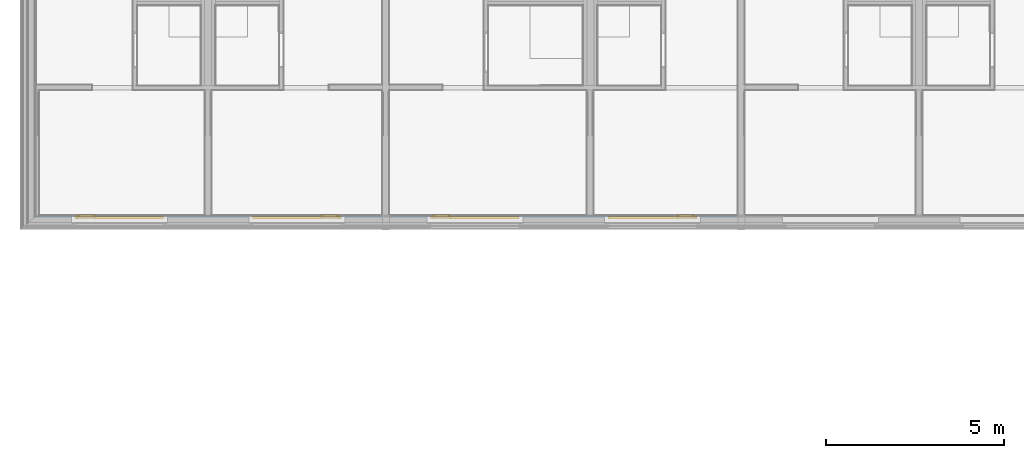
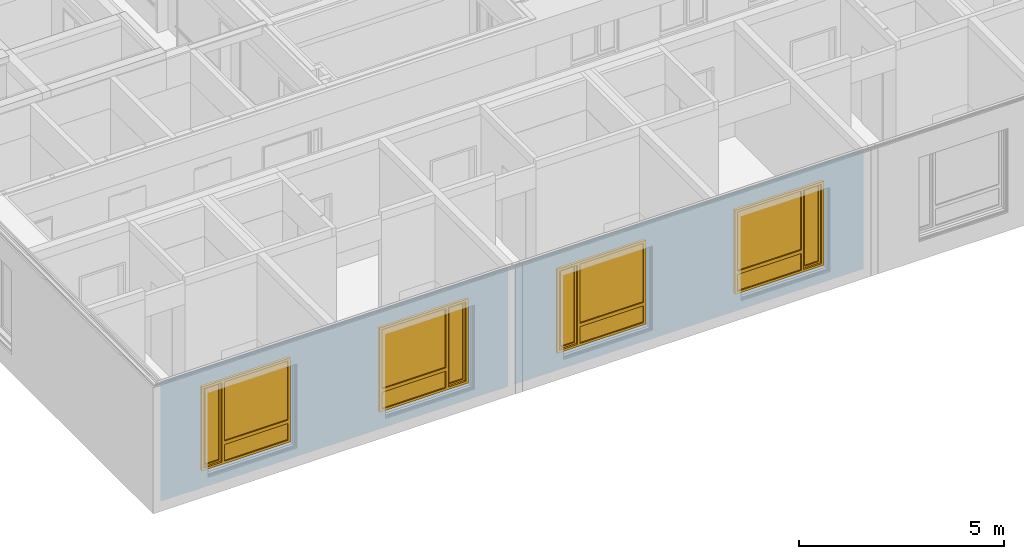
# One storey, part 58 of 222: 4 windows, 4 openings, plus 2 elements that do not belong to this part.
"""IFC4 building model written with IfcOpenShell, lengths in metres."""

from ifc_helpers import new_model, entity, si_unit, converted_unit, derived_unit, frame, frame_2d, origin, origin_with_axes, place, context, subcontext, project, spatial, polyline, rectangle, outline, extrude, closed_shell, open_shell, surface_model, source, transform, mapped, material, element, fill, save


model = new_model("IFC4")

# Units and contexts
model_context = context("Model", 3, precision=1e-05, world=origin())
body_context = subcontext(model_context, "Body", "Model", "MODEL_VIEW")
ifc_project = project(units=[si_unit("LENGTHUNIT", "METRE"), si_unit("AREAUNIT", "SQUARE_METRE"), si_unit("VOLUMEUNIT", "CUBIC_METRE"), si_unit("MASSUNIT", "GRAM", prefix="KILO"), converted_unit("PLANEANGLEUNIT", "DEGREE", entity("IfcPlaneAngleMeasure", 0.0174532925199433), si_unit("PLANEANGLEUNIT", "RADIAN"), dimensions=[0, 0, 0, 0, 0, 0, 0]), derived_unit("THERMALTRANSMITTANCEUNIT", [(si_unit("POWERUNIT", "WATT"), 1), (si_unit("THERMODYNAMICTEMPERATUREUNIT", "KELVIN"), -1), (si_unit("LENGTHUNIT", "METRE"), -2)]), derived_unit("VOLUMETRICFLOWRATEUNIT", [(si_unit("LENGTHUNIT", "METRE"), 3), (converted_unit("TIMEUNIT", "hour", entity("IfcTimeMeasure", 3600.0), si_unit("TIMEUNIT", "SECOND"), dimensions=[0, 0, 1, 0, 0, 0, 0]), -1), (si_unit("LENGTHUNIT", "METRE"), -1)])], contexts=[model_context])

# Site, building, storey
site_placement = place(None, origin())
site = spatial("IfcSite", under=ifc_project, at=site_placement, Name="Psychiatrie Neubau Wunstorf", CompositionType="ELEMENT")
building_placement = place(site_placement, origin())
building = spatial("IfcBuilding", under=site, at=building_placement, Name="Neubau H2 Stationsgebäude", CompositionType="ELEMENT")
storey_placement = place(building_placement, frame((0.0, 0.0, 3.6)))
storey = spatial("IfcBuildingStorey", under=building, at=storey_placement, Name="H2 Ebene +1", CompositionType="ELEMENT", Elevation=3.6)

# Wall, openings, windows
ifc_material_1 = material(Name="WA-LB")
wall_1_placement = place(storey_placement, frame((19.9, -2.16399999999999, 0.0), z_axis=(0.0, 0.0, 1.0), x_axis=(-1.0, 1.39208372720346e-16, 0.0)))
wall_1 = element("IfcWall", 1, at=wall_1_placement, inside=storey, material=ifc_material_1, context=body_context, shape_type="SweptSolid", body=[
    extrude(rectangle(XDim=9.8, YDim=0.036, at=frame_2d((4.9, 0.018), x_axis=(1.0, 0.0))), origin_with_axes(), (0.0, 0.0, 1.0), 3.55),
])
opening_1_placement = place(wall_1_placement, frame((6.15, 0.0, 0.55), z_axis=(0.0, 1.0, 0.0), x_axis=(0.0, 0.0, 1.0)))
opening_1 = element("IfcOpeningElement", 2, at=opening_1_placement, cuts=wall_1, Name="Fensteröffnung", ObjectType="Opening", context=body_context, shape_type="SweptSolid", body=[
    extrude(outline(polyline([(2.5, 2.5), (2.5, 0.0), (0.0, 0.0), (0.0, 2.5), (2.5, 2.5)])), origin_with_axes(), (0.0, 0.0, 1.0), 0.036),
])
opening_2_placement = place(wall_1_placement, frame((1.15, 0.0, 0.55), z_axis=(0.0, 1.0, 0.0), x_axis=(0.0, 0.0, 1.0)))
opening_2 = element("IfcOpeningElement", 3, at=opening_2_placement, cuts=wall_1, Name="Fensteröffnung", ObjectType="Opening", context=body_context, shape_type="SweptSolid", body=[
    extrude(outline(polyline([(2.5, 2.5), (2.5, 0.0), (0.0, 0.0), (0.0, 2.5), (2.5, 2.5)])), origin_with_axes(), (0.0, 0.0, 1.0), 0.036),
])
shared_shape_1 = source(origin_with_axes(), body_context, "Body", "SurfaceModel", [
    surface_model("IfcShellBasedSurfaceModel", [(2.5, 0.0, 2.5), (2.5, 0.0, 0.0), (2.43, 0.0, 0.0), (2.43, 0.0, 2.5), (2.5, 0.0699999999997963, 0.0), (2.5, 0.0699999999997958, 2.5), (2.43, 0.0699999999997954, 2.5), (2.43, 0.0699999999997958, 0.0)], [closed_shell([[[0, 1, 2, 3]], [[4, 5, 6, 7]], [[1, 0, 5, 4]], [[2, 1, 4, 7]], [[3, 2, 7, 6]], [[0, 3, 6, 5]]], orient=[[False], [False], [False], [False], [False], [False]])]),
    surface_model("IfcShellBasedSurfaceModel", [(0.07, 0.0, 2.5), (0.07, 0.0, 0.0), (0.0, 0.0, 0.0), (0.0, 0.0, 2.5), (0.07, 0.0699999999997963, 0.0), (0.07, 0.0699999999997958, 2.5), (0.0, 0.0699999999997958, 2.5), (0.0, 0.0699999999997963, 0.0)], [closed_shell([[[0, 1, 2, 3]], [[4, 5, 6, 7]], [[1, 0, 5, 4]], [[2, 1, 4, 7]], [[3, 2, 7, 6]], [[0, 3, 6, 5]]], orient=[[False], [False], [False], [False], [False], [False]])]),
    surface_model("IfcShellBasedSurfaceModel", [(2.43, 0.0, 0.07), (2.43, 0.0, 0.0), (0.07, 0.0, 0.0), (0.07, 0.0, 0.07), (2.43, 0.0699999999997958, 0.0), (2.43, 0.0699999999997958, 0.07), (0.07, 0.0699999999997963, 0.07), (0.07, 0.0699999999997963, 0.0)], [closed_shell([[[0, 1, 2, 3]], [[4, 5, 6, 7]], [[1, 0, 5, 4]], [[2, 1, 4, 7]], [[3, 2, 7, 6]], [[0, 3, 6, 5]]], orient=[[False], [False], [False], [False], [False], [False]])]),
    surface_model("IfcShellBasedSurfaceModel", [(2.43, 0.0, 2.5), (2.43, 0.0, 2.43), (0.07, 0.0, 2.43), (0.07, 0.0, 2.5), (2.43, 0.0699999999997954, 2.43), (2.43, 0.0699999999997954, 2.5), (0.07, 0.0699999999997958, 2.5), (0.07, 0.0699999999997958, 2.43)], [closed_shell([[[0, 1, 2, 3]], [[4, 5, 6, 7]], [[1, 0, 5, 4]], [[2, 1, 4, 7]], [[3, 2, 7, 6]], [[0, 3, 6, 5]]], orient=[[False], [False], [False], [False], [False], [False]])]),
    surface_model("IfcShellBasedSurfaceModel", [(1.934285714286, 0.0, 2.43), (1.934285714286, 0.0, 0.07), (1.864285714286, 0.0, 0.07), (1.864285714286, 0.0, 2.43), (1.934285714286, 0.0699999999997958, 0.07), (1.934285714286, 0.0699999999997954, 2.43), (1.864285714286, 0.0699999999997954, 2.43), (1.864285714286, 0.0699999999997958, 0.07)], [closed_shell([[[0, 1, 2, 3]], [[4, 5, 6, 7]], [[1, 0, 5, 4]], [[2, 1, 4, 7]], [[3, 2, 7, 6]], [[0, 3, 6, 5]]], orient=[[False], [False], [False], [False], [False], [False]])]),
    surface_model("IfcShellBasedSurfaceModel", [(2.45, -0.0500000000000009, 2.45), (2.45, -0.0500000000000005, 0.05), (2.38, -0.0500000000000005, 0.05), (2.38, -0.0500000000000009, 2.45), (2.45, 0.0199999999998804, 0.05), (2.45, 0.0199999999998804, 2.45), (2.38, 0.0199999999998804, 2.45), (2.38, 0.0199999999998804, 0.05)], [closed_shell([[[0, 1, 2, 3]], [[4, 5, 6, 7]], [[1, 0, 5, 4]], [[2, 1, 4, 7]], [[3, 2, 7, 6]], [[0, 3, 6, 5]]], orient=[[False], [False], [False], [False], [False], [False]])]),
    surface_model("IfcShellBasedSurfaceModel", [(1.984285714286, -0.0500000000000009, 2.45), (1.984285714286, -0.0500000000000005, 0.05), (1.914285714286, -0.0500000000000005, 0.05), (1.914285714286, -0.0500000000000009, 2.45), (1.984285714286, 0.0199999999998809, 0.05), (1.984285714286, 0.0199999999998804, 2.45), (1.914285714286, 0.0199999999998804, 2.45), (1.914285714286, 0.0199999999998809, 0.05)], [closed_shell([[[0, 1, 2, 3]], [[4, 5, 6, 7]], [[1, 0, 5, 4]], [[2, 1, 4, 7]], [[3, 2, 7, 6]], [[0, 3, 6, 5]]], orient=[[False], [False], [False], [False], [False], [False]])]),
    surface_model("IfcShellBasedSurfaceModel", [(2.38, -0.0500000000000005, 0.12), (2.38, -0.0500000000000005, 0.05), (1.984285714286, -0.0500000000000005, 0.05), (1.984285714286, -0.0500000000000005, 0.12), (2.38, 0.0199999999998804, 0.05), (2.38, 0.0199999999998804, 0.12), (1.984285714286, 0.0199999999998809, 0.12), (1.984285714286, 0.0199999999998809, 0.05)], [closed_shell([[[0, 1, 2, 3]], [[4, 5, 6, 7]], [[1, 0, 5, 4]], [[2, 1, 4, 7]], [[3, 2, 7, 6]], [[0, 3, 6, 5]]], orient=[[False], [False], [False], [False], [False], [False]])]),
    surface_model("IfcShellBasedSurfaceModel", [(2.38, -0.0500000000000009, 2.45), (2.38, -0.0500000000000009, 2.38), (1.984285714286, -0.0500000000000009, 2.38), (1.984285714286, -0.0500000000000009, 2.45), (2.38, 0.0199999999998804, 2.38), (2.38, 0.0199999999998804, 2.45), (1.984285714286, 0.0199999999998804, 2.45), (1.984285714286, 0.0199999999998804, 2.38)], [closed_shell([[[0, 1, 2, 3]], [[4, 5, 6, 7]], [[1, 0, 5, 4]], [[2, 1, 4, 7]], [[3, 2, 7, 6]], [[0, 3, 6, 5]]], orient=[[False], [False], [False], [False], [False], [False]])]),
    surface_model("IfcShellBasedSurfaceModel", [(1.864285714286, 0.0, 0.67), (1.864285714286, 0.0, 0.57), (0.07, 0.0, 0.57), (0.07, 0.0, 0.67), (1.864285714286, 0.0699999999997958, 0.57), (1.864285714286, 0.0699999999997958, 0.67), (0.07, 0.0699999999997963, 0.67), (0.07, 0.0699999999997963, 0.57)], [closed_shell([[[0, 1, 2, 3]], [[4, 5, 6, 7]], [[1, 0, 5, 4]], [[2, 1, 4, 7]], [[3, 2, 7, 6]], [[0, 3, 6, 5]]], orient=[[False], [False], [False], [False], [False], [False]])]),
    surface_model("IfcShellBasedSurfaceModel", [(2.38, -0.01500000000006, 0.12), (1.984285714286, -0.01500000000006, 0.12), (1.984285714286, -0.01500000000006, 2.38), (2.38, -0.0150000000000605, 2.38)], [open_shell([[[0, 1, 2, 3]]], orient=[[False]])]),
    surface_model("IfcShellBasedSurfaceModel", [(1.864285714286, 0.0349999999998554, 0.07), (0.07, 0.0349999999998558, 0.07), (0.07, 0.0349999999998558, 0.57), (1.864285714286, 0.0349999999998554, 0.57)], [open_shell([[[0, 1, 2, 3]]], orient=[[False]])]),
    surface_model("IfcShellBasedSurfaceModel", [(1.864285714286, 0.0349999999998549, 0.67), (0.07, 0.0349999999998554, 0.67), (0.07, 0.0349999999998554, 2.43), (1.864285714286, 0.0349999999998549, 2.43)], [open_shell([[[0, 1, 2, 3]]], orient=[[False]])]),
])
window_1_placement = place(opening_1_placement, frame((0.0, 0.0, 0.03), z_axis=(1.0, 0.0, 0.0), x_axis=(0.0, 1.0, -4.26905676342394e-17)))
window_1 = element("IfcWindow", 4, at=window_1_placement, inside=storey, Name="Fenster", OverallHeight=2.5, OverallWidth=2.5, PartitioningType="USERDEFINED", PredefinedType="WINDOW", context=body_context, shape_type="MappedRepresentation", body=[
    mapped(shared_shape_1, transform((0.0, 0.0, 0.0), x_axis=(1.0, 0.0, 0.0), y_axis=(0.0, 1.0, 0.0), z_axis=(0.0, 0.0, 1.0), scale=1.0)),
])
fill(opening_1, window_1)
shared_shape_2 = source(origin_with_axes(), body_context, "Body", "SurfaceModel", [
    surface_model("IfcShellBasedSurfaceModel", [(0.0, 0.0, 2.5), (0.07, 0.0, 2.5), (0.07, 0.0, 0.0), (0.0, 0.0, 0.0), (0.0, 0.0699999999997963, 0.0), (0.07, 0.0699999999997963, 0.0), (0.07, 0.0699999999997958, 2.5), (0.0, 0.0699999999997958, 2.5)], [closed_shell([[[0, 1, 2, 3]], [[4, 5, 6, 7]], [[3, 4, 7, 0]], [[2, 5, 4, 3]], [[1, 6, 5, 2]], [[0, 7, 6, 1]]], orient=[[False], [False], [False], [False], [False], [False]])]),
    surface_model("IfcShellBasedSurfaceModel", [(2.43, 0.0, 2.5), (2.5, 0.0, 2.5), (2.5, 0.0, 0.0), (2.43, 0.0, 0.0), (2.43, 0.0699999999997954, 0.0), (2.5, 0.0699999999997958, 0.0), (2.5, 0.0699999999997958, 2.5), (2.43, 0.0699999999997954, 2.5)], [closed_shell([[[0, 1, 2, 3]], [[4, 5, 6, 7]], [[3, 4, 7, 0]], [[2, 5, 4, 3]], [[1, 6, 5, 2]], [[0, 7, 6, 1]]], orient=[[False], [False], [False], [False], [False], [False]])]),
    surface_model("IfcShellBasedSurfaceModel", [(0.07, 0.0, 0.07), (2.43, 0.0, 0.07), (2.43, 0.0, 0.0), (0.07, 0.0, 0.0), (0.07, 0.0699999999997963, 0.0), (2.43, 0.0699999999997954, 0.0), (2.43, 0.0699999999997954, 0.07), (0.07, 0.0699999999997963, 0.07)], [closed_shell([[[0, 1, 2, 3]], [[4, 5, 6, 7]], [[3, 4, 7, 0]], [[2, 5, 4, 3]], [[1, 6, 5, 2]], [[0, 7, 6, 1]]], orient=[[False], [False], [False], [False], [False], [False]])]),
    surface_model("IfcShellBasedSurfaceModel", [(0.07, 0.0, 2.5), (2.43, 0.0, 2.5), (2.43, 0.0, 2.43), (0.07, 0.0, 2.43), (0.07, 0.0699999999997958, 2.43), (2.43, 0.0699999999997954, 2.43), (2.43, 0.0699999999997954, 2.5), (0.07, 0.0699999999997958, 2.5)], [closed_shell([[[0, 1, 2, 3]], [[4, 5, 6, 7]], [[3, 4, 7, 0]], [[2, 5, 4, 3]], [[1, 6, 5, 2]], [[0, 7, 6, 1]]], orient=[[False], [False], [False], [False], [False], [False]])]),
    surface_model("IfcShellBasedSurfaceModel", [(0.565714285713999, 0.0, 2.43), (0.635714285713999, 0.0, 2.43), (0.635714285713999, 0.0, 0.07), (0.565714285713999, 0.0, 0.07), (0.565714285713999, 0.0699999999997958, 0.07), (0.635714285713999, 0.0699999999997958, 0.07), (0.635714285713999, 0.0699999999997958, 2.43), (0.565714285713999, 0.0699999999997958, 2.43)], [closed_shell([[[0, 1, 2, 3]], [[4, 5, 6, 7]], [[3, 4, 7, 0]], [[2, 5, 4, 3]], [[1, 6, 5, 2]], [[0, 7, 6, 1]]], orient=[[False], [False], [False], [False], [False], [False]])]),
    surface_model("IfcShellBasedSurfaceModel", [(0.05, -0.0500000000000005, 2.45), (0.12, -0.0500000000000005, 2.45), (0.12, -0.05, 0.05), (0.05, -0.05, 0.05), (0.05, 0.0199999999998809, 0.05), (0.12, 0.0199999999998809, 0.05), (0.12, 0.0199999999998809, 2.45), (0.05, 0.0199999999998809, 2.45)], [closed_shell([[[0, 1, 2, 3]], [[4, 5, 6, 7]], [[3, 4, 7, 0]], [[2, 5, 4, 3]], [[1, 6, 5, 2]], [[0, 7, 6, 1]]], orient=[[False], [False], [False], [False], [False], [False]])]),
    surface_model("IfcShellBasedSurfaceModel", [(0.515714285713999, -0.0500000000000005, 2.45), (0.585714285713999, -0.0500000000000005, 2.45), (0.585714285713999, -0.0500000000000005, 0.05), (0.515714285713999, -0.0500000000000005, 0.05), (0.515714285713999, 0.0199999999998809, 0.05), (0.585714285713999, 0.0199999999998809, 0.05), (0.585714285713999, 0.0199999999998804, 2.45), (0.515714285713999, 0.0199999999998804, 2.45)], [closed_shell([[[0, 1, 2, 3]], [[4, 5, 6, 7]], [[3, 4, 7, 0]], [[2, 5, 4, 3]], [[1, 6, 5, 2]], [[0, 7, 6, 1]]], orient=[[False], [False], [False], [False], [False], [False]])]),
    surface_model("IfcShellBasedSurfaceModel", [(0.12, -0.05, 0.12), (0.515714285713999, -0.0500000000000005, 0.12), (0.515714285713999, -0.0500000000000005, 0.05), (0.12, -0.05, 0.05), (0.12, 0.0199999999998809, 0.05), (0.515714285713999, 0.0199999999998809, 0.05), (0.515714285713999, 0.0199999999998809, 0.12), (0.12, 0.0199999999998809, 0.12)], [closed_shell([[[0, 1, 2, 3]], [[4, 5, 6, 7]], [[3, 4, 7, 0]], [[2, 5, 4, 3]], [[1, 6, 5, 2]], [[0, 7, 6, 1]]], orient=[[False], [False], [False], [False], [False], [False]])]),
    surface_model("IfcShellBasedSurfaceModel", [(0.12, -0.0500000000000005, 2.45), (0.515714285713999, -0.0500000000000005, 2.45), (0.515714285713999, -0.0500000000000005, 2.38), (0.12, -0.0500000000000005, 2.38), (0.12, 0.0199999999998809, 2.38), (0.515714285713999, 0.0199999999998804, 2.38), (0.515714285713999, 0.0199999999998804, 2.45), (0.12, 0.0199999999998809, 2.45)], [closed_shell([[[0, 1, 2, 3]], [[4, 5, 6, 7]], [[3, 4, 7, 0]], [[2, 5, 4, 3]], [[1, 6, 5, 2]], [[0, 7, 6, 1]]], orient=[[False], [False], [False], [False], [False], [False]])]),
    surface_model("IfcShellBasedSurfaceModel", [(0.635714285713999, 0.0, 0.67), (2.43, 0.0, 0.67), (2.43, 0.0, 0.57), (0.635714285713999, 0.0, 0.57), (0.635714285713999, 0.0699999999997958, 0.57), (2.43, 0.0699999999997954, 0.57), (2.43, 0.0699999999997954, 0.67), (0.635714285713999, 0.0699999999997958, 0.67)], [closed_shell([[[0, 1, 2, 3]], [[4, 5, 6, 7]], [[3, 4, 7, 0]], [[2, 5, 4, 3]], [[1, 6, 5, 2]], [[0, 7, 6, 1]]], orient=[[False], [False], [False], [False], [False], [False]])]),
    surface_model("IfcShellBasedSurfaceModel", [(0.12, -0.0150000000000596, 0.12), (0.12, -0.01500000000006, 2.38), (0.515714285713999, -0.01500000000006, 2.38), (0.515714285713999, -0.0150000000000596, 0.12)], [open_shell([[[0, 1, 2, 3]]], orient=[[False]])]),
    surface_model("IfcShellBasedSurfaceModel", [(0.635714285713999, 0.0349999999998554, 0.07), (0.635714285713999, 0.0349999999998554, 0.57), (2.43, 0.0349999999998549, 0.57), (2.43, 0.0349999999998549, 0.07)], [open_shell([[[0, 1, 2, 3]]], orient=[[False]])]),
    surface_model("IfcShellBasedSurfaceModel", [(0.635714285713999, 0.0349999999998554, 0.67), (0.635714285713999, 0.0349999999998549, 2.43), (2.43, 0.0349999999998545, 2.43), (2.43, 0.0349999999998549, 0.67)], [open_shell([[[0, 1, 2, 3]]], orient=[[False]])]),
])
window_2_placement = place(opening_2_placement, frame((0.0, 0.0, 0.03), z_axis=(1.0, 0.0, 0.0), x_axis=(0.0, 1.0, -4.26905676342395e-17)))
window_2 = element("IfcWindow", 5, at=window_2_placement, inside=storey, Name="Fenster", OverallHeight=2.5, OverallWidth=2.5, PartitioningType="USERDEFINED", PredefinedType="WINDOW", context=body_context, shape_type="MappedRepresentation", body=[
    mapped(shared_shape_2, transform((0.0, 0.0, 0.0), x_axis=(1.0, 0.0, 0.0), y_axis=(0.0, 1.0, 0.0), z_axis=(0.0, 0.0, 1.0), scale=1.0)),
])
fill(opening_2, window_2)

ifc_material_2 = material(Name="WA-LB")
wall_2_placement = place(storey_placement, frame((9.9, -2.16399999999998, 0.0), z_axis=(0.0, 0.0, 1.0), x_axis=(-1.0, 1.40209871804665e-16, 0.0)))
wall_2 = element("IfcWall", 6, at=wall_2_placement, inside=storey, material=ifc_material_2, context=body_context, shape_type="SweptSolid", body=[
    extrude(outline(polyline([(-9.77137313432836, -0.0360000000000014), (-0.0413731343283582, -0.0360000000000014), (0.0, 0.0), (-9.77137313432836, 0.0), (-9.77137313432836, -0.0360000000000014)])), frame((9.77137313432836, 0.0360000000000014, 0.0), z_axis=(0.0, 0.0, 1.0), x_axis=(1.0, 0.0, 0.0)), (0.0, 0.0, 1.0), 3.55),
])
opening_3_placement = place(wall_2_placement, frame((1.15, 0.0, 0.55), z_axis=(0.0, 1.0, 0.0), x_axis=(0.0, 0.0, 1.0)))
opening_3 = element("IfcOpeningElement", 7, at=opening_3_placement, cuts=wall_2, Name="Fensteröffnung", ObjectType="Opening", context=body_context, shape_type="SweptSolid", body=[
    extrude(outline(polyline([(2.5, 2.5), (2.5, 0.0), (0.0, 0.0), (0.0, 2.5), (2.5, 2.5)])), origin_with_axes(), (0.0, 0.0, 1.0), 0.036),
])
opening_4_placement = place(wall_2_placement, frame((6.15, 0.0, 0.55), z_axis=(0.0, 1.0, 0.0), x_axis=(0.0, 0.0, 1.0)))
opening_4 = element("IfcOpeningElement", 8, at=opening_4_placement, cuts=wall_2, Name="Fensteröffnung", ObjectType="Opening", context=body_context, shape_type="SweptSolid", body=[
    extrude(outline(polyline([(2.5, 2.5), (2.5, 0.0), (0.0, 0.0), (0.0, 2.5), (2.5, 2.5)])), origin_with_axes(), (0.0, 0.0, 1.0), 0.036),
])
shared_shape_3 = source(origin_with_axes(), body_context, "Body", "SurfaceModel", [
    surface_model("IfcShellBasedSurfaceModel", [(0.0, 0.0, 2.5), (0.07, 0.0, 2.5), (0.07, 0.0, 0.0), (0.0, 0.0, 0.0), (0.0, 0.0699999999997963, 0.0), (0.07, 0.0699999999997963, 0.0), (0.07, 0.0699999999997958, 2.5), (0.0, 0.0699999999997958, 2.5)], [closed_shell([[[0, 1, 2, 3]], [[4, 5, 6, 7]], [[3, 4, 7, 0]], [[2, 5, 4, 3]], [[1, 6, 5, 2]], [[0, 7, 6, 1]]], orient=[[False], [False], [False], [False], [False], [False]])]),
    surface_model("IfcShellBasedSurfaceModel", [(2.43, 0.0, 2.5), (2.5, 0.0, 2.5), (2.5, 0.0, 0.0), (2.43, 0.0, 0.0), (2.43, 0.0699999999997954, 0.0), (2.5, 0.0699999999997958, 0.0), (2.5, 0.0699999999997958, 2.5), (2.43, 0.0699999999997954, 2.5)], [closed_shell([[[0, 1, 2, 3]], [[4, 5, 6, 7]], [[3, 4, 7, 0]], [[2, 5, 4, 3]], [[1, 6, 5, 2]], [[0, 7, 6, 1]]], orient=[[False], [False], [False], [False], [False], [False]])]),
    surface_model("IfcShellBasedSurfaceModel", [(0.07, 0.0, 0.07), (2.43, 0.0, 0.07), (2.43, 0.0, 0.0), (0.07, 0.0, 0.0), (0.07, 0.0699999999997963, 0.0), (2.43, 0.0699999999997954, 0.0), (2.43, 0.0699999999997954, 0.07), (0.07, 0.0699999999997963, 0.07)], [closed_shell([[[0, 1, 2, 3]], [[4, 5, 6, 7]], [[3, 4, 7, 0]], [[2, 5, 4, 3]], [[1, 6, 5, 2]], [[0, 7, 6, 1]]], orient=[[False], [False], [False], [False], [False], [False]])]),
    surface_model("IfcShellBasedSurfaceModel", [(0.07, 0.0, 2.5), (2.43, 0.0, 2.5), (2.43, 0.0, 2.43), (0.07, 0.0, 2.43), (0.07, 0.0699999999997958, 2.43), (2.43, 0.0699999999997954, 2.43), (2.43, 0.0699999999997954, 2.5), (0.07, 0.0699999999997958, 2.5)], [closed_shell([[[0, 1, 2, 3]], [[4, 5, 6, 7]], [[3, 4, 7, 0]], [[2, 5, 4, 3]], [[1, 6, 5, 2]], [[0, 7, 6, 1]]], orient=[[False], [False], [False], [False], [False], [False]])]),
    surface_model("IfcShellBasedSurfaceModel", [(0.565714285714, 0.0, 2.43), (0.635714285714, 0.0, 2.43), (0.635714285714, 0.0, 0.07), (0.565714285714, 0.0, 0.07), (0.565714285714, 0.0699999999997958, 0.07), (0.635714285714, 0.0699999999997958, 0.07), (0.635714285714, 0.0699999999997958, 2.43), (0.565714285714, 0.0699999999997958, 2.43)], [closed_shell([[[0, 1, 2, 3]], [[4, 5, 6, 7]], [[3, 4, 7, 0]], [[2, 5, 4, 3]], [[1, 6, 5, 2]], [[0, 7, 6, 1]]], orient=[[False], [False], [False], [False], [False], [False]])]),
    surface_model("IfcShellBasedSurfaceModel", [(0.05, -0.0500000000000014, 2.45), (0.12, -0.0500000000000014, 2.45), (0.12, -0.0500000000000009, 0.05), (0.05, -0.0500000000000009, 0.05), (0.05, 0.0199999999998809, 0.05), (0.12, 0.0199999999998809, 0.05), (0.12, 0.0199999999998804, 2.45), (0.05, 0.0199999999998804, 2.45)], [closed_shell([[[0, 1, 2, 3]], [[4, 5, 6, 7]], [[3, 4, 7, 0]], [[2, 5, 4, 3]], [[1, 6, 5, 2]], [[0, 7, 6, 1]]], orient=[[False], [False], [False], [False], [False], [False]])]),
    surface_model("IfcShellBasedSurfaceModel", [(0.515714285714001, -0.0500000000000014, 2.45), (0.585714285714, -0.0500000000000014, 2.45), (0.585714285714, -0.0500000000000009, 0.05), (0.515714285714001, -0.0500000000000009, 0.05), (0.515714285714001, 0.0199999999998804, 0.05), (0.585714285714, 0.0199999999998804, 0.05), (0.585714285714, 0.0199999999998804, 2.45), (0.515714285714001, 0.0199999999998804, 2.45)], [closed_shell([[[0, 1, 2, 3]], [[4, 5, 6, 7]], [[3, 4, 7, 0]], [[2, 5, 4, 3]], [[1, 6, 5, 2]], [[0, 7, 6, 1]]], orient=[[False], [False], [False], [False], [False], [False]])]),
    surface_model("IfcShellBasedSurfaceModel", [(0.12, -0.0500000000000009, 0.12), (0.515714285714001, -0.0500000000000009, 0.12), (0.515714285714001, -0.0500000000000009, 0.05), (0.12, -0.0500000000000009, 0.05), (0.12, 0.0199999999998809, 0.05), (0.515714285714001, 0.0199999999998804, 0.05), (0.515714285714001, 0.0199999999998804, 0.12), (0.12, 0.0199999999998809, 0.12)], [closed_shell([[[0, 1, 2, 3]], [[4, 5, 6, 7]], [[3, 4, 7, 0]], [[2, 5, 4, 3]], [[1, 6, 5, 2]], [[0, 7, 6, 1]]], orient=[[False], [False], [False], [False], [False], [False]])]),
    surface_model("IfcShellBasedSurfaceModel", [(0.12, -0.0500000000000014, 2.45), (0.515714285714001, -0.0500000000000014, 2.45), (0.515714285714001, -0.0500000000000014, 2.38), (0.12, -0.0500000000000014, 2.38), (0.12, 0.0199999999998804, 2.38), (0.515714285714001, 0.0199999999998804, 2.38), (0.515714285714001, 0.0199999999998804, 2.45), (0.12, 0.0199999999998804, 2.45)], [closed_shell([[[0, 1, 2, 3]], [[4, 5, 6, 7]], [[3, 4, 7, 0]], [[2, 5, 4, 3]], [[1, 6, 5, 2]], [[0, 7, 6, 1]]], orient=[[False], [False], [False], [False], [False], [False]])]),
    surface_model("IfcShellBasedSurfaceModel", [(0.635714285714, 0.0, 0.67), (2.43, 0.0, 0.67), (2.43, 0.0, 0.57), (0.635714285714, 0.0, 0.57), (0.635714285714, 0.0699999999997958, 0.57), (2.43, 0.0699999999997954, 0.57), (2.43, 0.0699999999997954, 0.67), (0.635714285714, 0.0699999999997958, 0.67)], [closed_shell([[[0, 1, 2, 3]], [[4, 5, 6, 7]], [[3, 4, 7, 0]], [[2, 5, 4, 3]], [[1, 6, 5, 2]], [[0, 7, 6, 1]]], orient=[[False], [False], [False], [False], [False], [False]])]),
    surface_model("IfcShellBasedSurfaceModel", [(0.12, -0.01500000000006, 0.12), (0.12, -0.0150000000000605, 2.38), (0.515714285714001, -0.0150000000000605, 2.38), (0.515714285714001, -0.01500000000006, 0.12)], [open_shell([[[0, 1, 2, 3]]], orient=[[False]])]),
    surface_model("IfcShellBasedSurfaceModel", [(0.635714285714, 0.0349999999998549, 0.07), (0.635714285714, 0.0349999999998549, 0.57), (2.43, 0.0349999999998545, 0.57), (2.43, 0.0349999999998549, 0.07)], [open_shell([[[0, 1, 2, 3]]], orient=[[False]])]),
    surface_model("IfcShellBasedSurfaceModel", [(0.635714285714, 0.0349999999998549, 0.67), (0.635714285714, 0.0349999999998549, 2.43), (2.43, 0.0349999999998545, 2.43), (2.43, 0.0349999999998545, 0.67)], [open_shell([[[0, 1, 2, 3]]], orient=[[False]])]),
])
window_3_placement = place(opening_3_placement, frame((0.0, 0.0, 0.03), z_axis=(1.0, 0.0, 0.0), x_axis=(0.0, 1.0, -4.16890685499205e-17)))
window_3 = element("IfcWindow", 9, at=window_3_placement, inside=storey, Name="Fenster", OverallHeight=2.5, OverallWidth=2.5, PartitioningType="USERDEFINED", PredefinedType="WINDOW", context=body_context, shape_type="MappedRepresentation", body=[
    mapped(shared_shape_3, transform((0.0, 0.0, 0.0), x_axis=(1.0, 0.0, 0.0), y_axis=(0.0, 1.0, 0.0), z_axis=(0.0, 0.0, 1.0), scale=1.0)),
])
fill(opening_3, window_3)
shared_shape_4 = source(origin_with_axes(), body_context, "Body", "SurfaceModel", [
    surface_model("IfcShellBasedSurfaceModel", [(2.5, 0.0, 2.5), (2.5, 0.0, 0.0), (2.43, 0.0, 0.0), (2.43, 0.0, 2.5), (2.5, 0.0699999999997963, 0.0), (2.5, 0.0699999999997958, 2.5), (2.43, 0.0699999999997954, 2.5), (2.43, 0.0699999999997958, 0.0)], [closed_shell([[[0, 1, 2, 3]], [[4, 5, 6, 7]], [[1, 0, 5, 4]], [[2, 1, 4, 7]], [[3, 2, 7, 6]], [[0, 3, 6, 5]]], orient=[[False], [False], [False], [False], [False], [False]])]),
    surface_model("IfcShellBasedSurfaceModel", [(0.0700000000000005, 0.0, 2.5), (0.0700000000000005, 0.0, 0.0), (0.0, 0.0, 0.0), (0.0, 0.0, 2.5), (0.0700000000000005, 0.0699999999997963, 0.0), (0.0700000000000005, 0.0699999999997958, 2.5), (0.0, 0.0699999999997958, 2.5), (0.0, 0.0699999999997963, 0.0)], [closed_shell([[[0, 1, 2, 3]], [[4, 5, 6, 7]], [[1, 0, 5, 4]], [[2, 1, 4, 7]], [[3, 2, 7, 6]], [[0, 3, 6, 5]]], orient=[[False], [False], [False], [False], [False], [False]])]),
    surface_model("IfcShellBasedSurfaceModel", [(2.43, 0.0, 0.07), (2.43, 0.0, 0.0), (0.07, 0.0, 0.0), (0.07, 0.0, 0.07), (2.43, 0.0699999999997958, 0.0), (2.43, 0.0699999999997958, 0.07), (0.07, 0.0699999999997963, 0.07), (0.07, 0.0699999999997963, 0.0)], [closed_shell([[[0, 1, 2, 3]], [[4, 5, 6, 7]], [[1, 0, 5, 4]], [[2, 1, 4, 7]], [[3, 2, 7, 6]], [[0, 3, 6, 5]]], orient=[[False], [False], [False], [False], [False], [False]])]),
    surface_model("IfcShellBasedSurfaceModel", [(2.43, 0.0, 2.5), (2.43, 0.0, 2.43), (0.07, 0.0, 2.43), (0.07, 0.0, 2.5), (2.43, 0.0699999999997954, 2.43), (2.43, 0.0699999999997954, 2.5), (0.07, 0.0699999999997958, 2.5), (0.07, 0.0699999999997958, 2.43)], [closed_shell([[[0, 1, 2, 3]], [[4, 5, 6, 7]], [[1, 0, 5, 4]], [[2, 1, 4, 7]], [[3, 2, 7, 6]], [[0, 3, 6, 5]]], orient=[[False], [False], [False], [False], [False], [False]])]),
    surface_model("IfcShellBasedSurfaceModel", [(1.934285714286, 0.0, 2.43), (1.934285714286, 0.0, 0.07), (1.864285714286, 0.0, 0.07), (1.864285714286, 0.0, 2.43), (1.934285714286, 0.0699999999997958, 0.07), (1.934285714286, 0.0699999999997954, 2.43), (1.864285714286, 0.0699999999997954, 2.43), (1.864285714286, 0.0699999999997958, 0.07)], [closed_shell([[[0, 1, 2, 3]], [[4, 5, 6, 7]], [[1, 0, 5, 4]], [[2, 1, 4, 7]], [[3, 2, 7, 6]], [[0, 3, 6, 5]]], orient=[[False], [False], [False], [False], [False], [False]])]),
    surface_model("IfcShellBasedSurfaceModel", [(2.45, -0.0500000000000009, 2.45), (2.45, -0.0500000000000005, 0.05), (2.38, -0.0500000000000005, 0.05), (2.38, -0.0500000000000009, 2.45), (2.45, 0.0199999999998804, 0.05), (2.45, 0.0199999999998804, 2.45), (2.38, 0.0199999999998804, 2.45), (2.38, 0.0199999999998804, 0.05)], [closed_shell([[[0, 1, 2, 3]], [[4, 5, 6, 7]], [[1, 0, 5, 4]], [[2, 1, 4, 7]], [[3, 2, 7, 6]], [[0, 3, 6, 5]]], orient=[[False], [False], [False], [False], [False], [False]])]),
    surface_model("IfcShellBasedSurfaceModel", [(1.984285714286, -0.0500000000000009, 2.45), (1.984285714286, -0.0500000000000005, 0.05), (1.914285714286, -0.0500000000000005, 0.05), (1.914285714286, -0.0500000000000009, 2.45), (1.984285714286, 0.0199999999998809, 0.05), (1.984285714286, 0.0199999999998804, 2.45), (1.914285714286, 0.0199999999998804, 2.45), (1.914285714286, 0.0199999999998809, 0.05)], [closed_shell([[[0, 1, 2, 3]], [[4, 5, 6, 7]], [[1, 0, 5, 4]], [[2, 1, 4, 7]], [[3, 2, 7, 6]], [[0, 3, 6, 5]]], orient=[[False], [False], [False], [False], [False], [False]])]),
    surface_model("IfcShellBasedSurfaceModel", [(2.38, -0.0500000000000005, 0.12), (2.38, -0.0500000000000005, 0.05), (1.984285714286, -0.0500000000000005, 0.05), (1.984285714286, -0.0500000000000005, 0.12), (2.38, 0.0199999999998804, 0.05), (2.38, 0.0199999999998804, 0.12), (1.984285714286, 0.0199999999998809, 0.12), (1.984285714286, 0.0199999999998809, 0.05)], [closed_shell([[[0, 1, 2, 3]], [[4, 5, 6, 7]], [[1, 0, 5, 4]], [[2, 1, 4, 7]], [[3, 2, 7, 6]], [[0, 3, 6, 5]]], orient=[[False], [False], [False], [False], [False], [False]])]),
    surface_model("IfcShellBasedSurfaceModel", [(2.38, -0.0500000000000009, 2.45), (2.38, -0.0500000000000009, 2.38), (1.984285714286, -0.0500000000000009, 2.38), (1.984285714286, -0.0500000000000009, 2.45), (2.38, 0.0199999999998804, 2.38), (2.38, 0.0199999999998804, 2.45), (1.984285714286, 0.0199999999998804, 2.45), (1.984285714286, 0.0199999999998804, 2.38)], [closed_shell([[[0, 1, 2, 3]], [[4, 5, 6, 7]], [[1, 0, 5, 4]], [[2, 1, 4, 7]], [[3, 2, 7, 6]], [[0, 3, 6, 5]]], orient=[[False], [False], [False], [False], [False], [False]])]),
    surface_model("IfcShellBasedSurfaceModel", [(1.864285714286, 0.0, 0.67), (1.864285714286, 0.0, 0.57), (0.07, 0.0, 0.57), (0.07, 0.0, 0.67), (1.864285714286, 0.0699999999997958, 0.57), (1.864285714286, 0.0699999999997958, 0.67), (0.07, 0.0699999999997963, 0.67), (0.07, 0.0699999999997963, 0.57)], [closed_shell([[[0, 1, 2, 3]], [[4, 5, 6, 7]], [[1, 0, 5, 4]], [[2, 1, 4, 7]], [[3, 2, 7, 6]], [[0, 3, 6, 5]]], orient=[[False], [False], [False], [False], [False], [False]])]),
    surface_model("IfcShellBasedSurfaceModel", [(2.38, -0.01500000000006, 0.12), (1.984285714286, -0.01500000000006, 0.12), (1.984285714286, -0.01500000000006, 2.38), (2.38, -0.0150000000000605, 2.38)], [open_shell([[[0, 1, 2, 3]]], orient=[[False]])]),
    surface_model("IfcShellBasedSurfaceModel", [(1.864285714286, 0.0349999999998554, 0.07), (0.07, 0.0349999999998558, 0.07), (0.07, 0.0349999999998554, 0.57), (1.864285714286, 0.0349999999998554, 0.57)], [open_shell([[[0, 1, 2, 3]]], orient=[[False]])]),
    surface_model("IfcShellBasedSurfaceModel", [(1.864285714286, 0.0349999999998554, 0.67), (0.07, 0.0349999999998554, 0.67), (0.07, 0.0349999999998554, 2.43), (1.864285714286, 0.0349999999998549, 2.43)], [open_shell([[[0, 1, 2, 3]]], orient=[[False]])]),
])
window_4_placement = place(opening_4_placement, frame((0.0, 0.0, 0.03), z_axis=(1.0, 0.0, 0.0), x_axis=(0.0, 1.0, -4.16890685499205e-17)))
window_4 = element("IfcWindow", 10, at=window_4_placement, inside=storey, Name="Fenster", OverallHeight=2.5, OverallWidth=2.5, PartitioningType="USERDEFINED", PredefinedType="WINDOW", context=body_context, shape_type="MappedRepresentation", body=[
    mapped(shared_shape_4, transform((0.0, 0.0, 0.0), x_axis=(1.0, 0.0, 0.0), y_axis=(0.0, 1.0, 0.0), z_axis=(0.0, 0.0, 1.0), scale=1.0)),
])
fill(opening_4, window_4)

save(model, "model.ifc")
